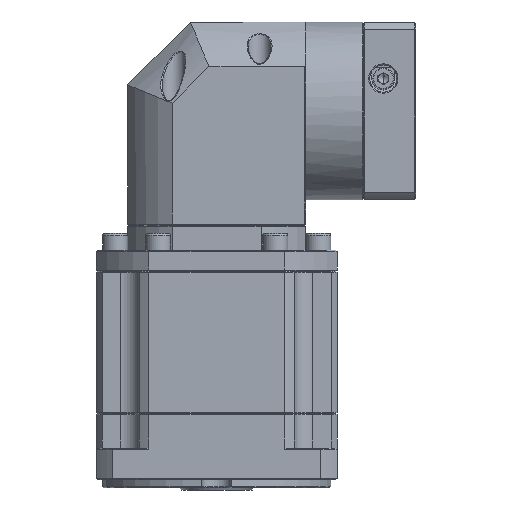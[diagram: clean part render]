
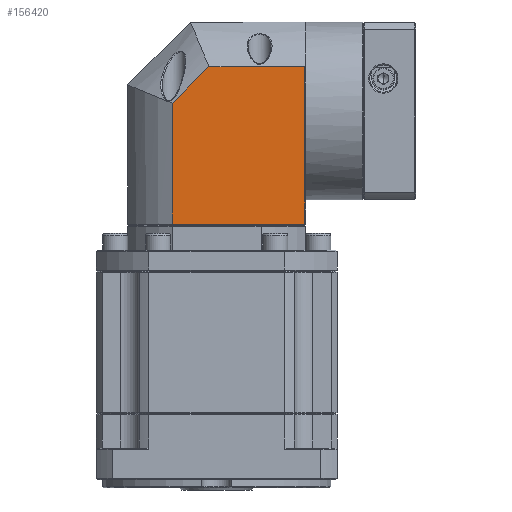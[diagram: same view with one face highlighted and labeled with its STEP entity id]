
A CAD part, front view. The second image highlights one B-rep face of the part: STEP entity #156420.
In plain terms, the highlighted planar face has unit normal (0, -1, 0).
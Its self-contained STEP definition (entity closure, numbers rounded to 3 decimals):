
#5701 = DIRECTION ( 'NONE',  ( 1., 0., 0. ) ) ;
#10400 = AXIS2_PLACEMENT_3D ( 'NONE', #66604, #162709, #80417 ) ;
#21864 = EDGE_CURVE ( 'NONE', #176856, #32518, #26509, .T. ) ;
#26509 = LINE ( 'NONE', #146280, #58789 ) ;
#32518 = VERTEX_POINT ( 'NONE', #70536 ) ;
#34864 = VERTEX_POINT ( 'NONE', #72585 ) ;
#38661 = ORIENTED_EDGE ( 'NONE', *, *, #159309, .T. ) ;
#41555 = ORIENTED_EDGE ( 'NONE', *, *, #101966, .F. ) ;
#42325 = EDGE_CURVE ( 'NONE', #34864, #64238, #53954, .T. ) ;
#47496 = EDGE_CURVE ( 'NONE', #130271, #34864, #81069, .T. ) ;
#51631 = CARTESIAN_POINT ( 'NONE',  ( 71.38, 72.207, -30.422 ) ) ;
#51999 = CARTESIAN_POINT ( 'NONE',  ( 25.198, 72.207, -30.422 ) ) ;
#53954 = LINE ( 'NONE', #117889, #159267 ) ;
#58789 = VECTOR ( 'NONE', #132481, 1000. ) ;
#64238 = VERTEX_POINT ( 'NONE', #145183 ) ;
#66604 = CARTESIAN_POINT ( 'NONE',  ( 71.38, 72.207, -9.136 ) ) ;
#67803 = VECTOR ( 'NONE', #138737, 1000. ) ;
#68101 = EDGE_LOOP ( 'NONE', ( #38661, #165621, #175082, #41555, #113252 ) ) ;
#70536 = CARTESIAN_POINT ( 'NONE',  ( 7.667, 72.207, -47.953 ) ) ;
#72585 = CARTESIAN_POINT ( 'NONE',  ( 70.88, 72.207, -30.422 ) ) ;
#79966 = DIRECTION ( 'NONE',  ( 1., 0., 0. ) ) ;
#80417 = DIRECTION ( 'NONE',  ( -1., 0., 0. ) ) ;
#81069 = LINE ( 'NONE', #51631, #117578 ) ;
#88111 = CARTESIAN_POINT ( 'NONE',  ( 7.667, 72.207, -105.636 ) ) ;
#101966 = EDGE_CURVE ( 'NONE', #32518, #130271, #173068, .T. ) ;
#104067 = DIRECTION ( 'NONE',  ( 0., 0., -1. ) ) ;
#105430 = FACE_OUTER_BOUND ( 'NONE', #68101, .T. ) ;
#107448 = PLANE ( 'NONE',  #10400 ) ;
#113252 = ORIENTED_EDGE ( 'NONE', *, *, #21864, .F. ) ;
#114004 = CARTESIAN_POINT ( 'NONE',  ( 71.38, 72.207, -105.636 ) ) ;
#117578 = VECTOR ( 'NONE', #79966, 1000. ) ;
#117889 = CARTESIAN_POINT ( 'NONE',  ( 70.88, 72.207, -9.136 ) ) ;
#130271 = VERTEX_POINT ( 'NONE', #51999 ) ;
#132481 = DIRECTION ( 'NONE',  ( 0., 0., 1. ) ) ;
#138737 = DIRECTION ( 'NONE',  ( 0.707, 0., 0.707 ) ) ;
#145183 = CARTESIAN_POINT ( 'NONE',  ( 70.88, 72.207, -105.636 ) ) ;
#146280 = CARTESIAN_POINT ( 'NONE',  ( 7.667, 72.207, -9.136 ) ) ;
#152510 = CARTESIAN_POINT ( 'NONE',  ( 7.667, 72.207, -47.953 ) ) ;
#156420 = ADVANCED_FACE ( 'NONE', ( #105430 ), #107448, .F. ) ;
#159267 = VECTOR ( 'NONE', #104067, 1000. ) ;
#159309 = EDGE_CURVE ( 'NONE', #176856, #64238, #166672, .T. ) ;
#162328 = VECTOR ( 'NONE', #5701, 1000. ) ;
#162709 = DIRECTION ( 'NONE',  ( 0., 1., 0. ) ) ;
#165621 = ORIENTED_EDGE ( 'NONE', *, *, #42325, .F. ) ;
#166672 = LINE ( 'NONE', #114004, #162328 ) ;
#173068 = LINE ( 'NONE', #152510, #67803 ) ;
#175082 = ORIENTED_EDGE ( 'NONE', *, *, #47496, .F. ) ;
#176856 = VERTEX_POINT ( 'NONE', #88111 ) ;
